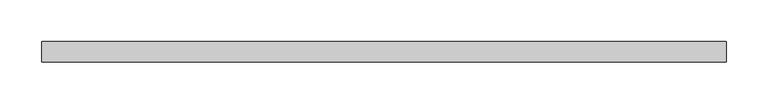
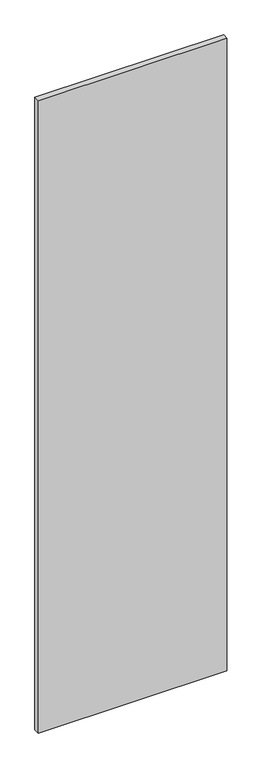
"""IFC4 building model written with IfcOpenShell, lengths in millimetres: plate geometry, 系统嵌板 : 玻璃."""

from ifc_helpers import new_model, si_unit, origin, origin_with_axes, place, context, project, spatial, polyline, outline, extrude, source, transform, mapped, element, save


def plate_bb70c031(model_context):
    return source(origin(), model_context, "Body", "SweptSolid", [
        extrude(outline(polyline([(412.5, -12.5), (-412.5, -12.5), (-412.5, 12.5), (412.5, 12.5), (412.5, -12.5)])), origin_with_axes(), (0.0, 0.0, 1.0), 2925.0),
    ])


if __name__ == "__main__":
    model = new_model("IFC4")
    model_context = context("Model", 3, world=origin())
    ifc_project = project(units=[si_unit("LENGTHUNIT", "METRE", prefix="MILLI")], contexts=[model_context])
    site = spatial("IfcSite", under=ifc_project)
    building = spatial("IfcBuilding", under=site)
    placement = place(None, origin())
    plate_shape = plate_bb70c031(model_context)
    element("IfcPlate", 1, ObjectType="系统嵌板 : 玻璃", at=placement, inside=building, context=model_context, shape_type="MappedRepresentation", body=[
        mapped(plate_shape, transform((0.0, 0.0, 0.0), x_axis=(1.0, 0.0, 0.0), y_axis=(0.0, 1.0, 0.0), z_axis=(0.0, 0.0, 1.0))),
    ])
    save(model, "model.ifc")
